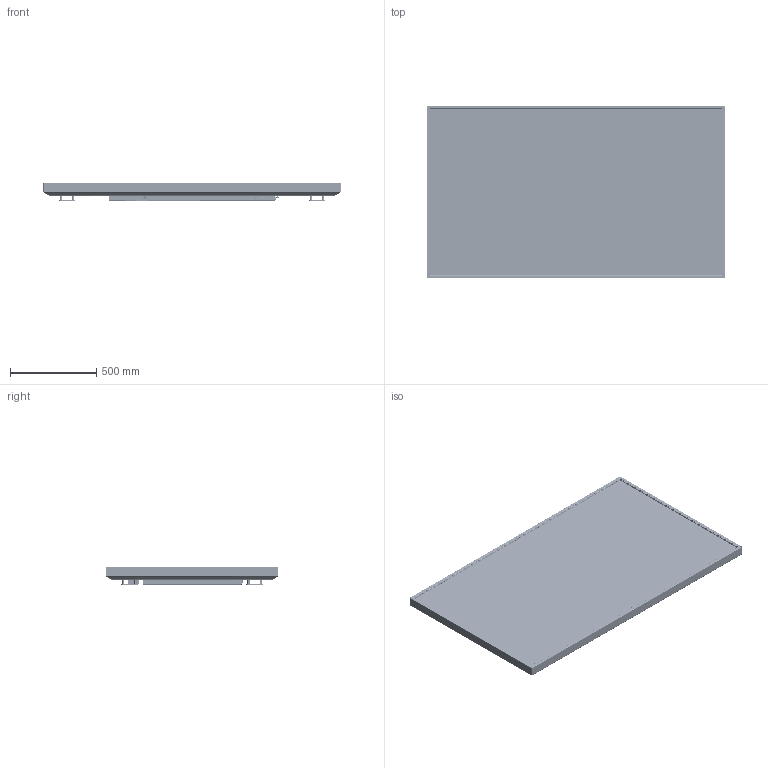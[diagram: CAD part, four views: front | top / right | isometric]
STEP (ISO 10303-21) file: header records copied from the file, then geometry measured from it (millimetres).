
FILE_DESCRIPTION (( 'STEP AP203' ), '1' );
FILE_NAME ('URX75-ERO-T Panel 3D.STEP', '2022-08-16T21:07:40', ( '' ), ( '' ), 'SwSTEP 2.0', 'SolidWorks 2021', '' );
FILE_SCHEMA (( 'CONFIG_CONTROL_DESIGN' ));
Length unit declared in the file: millimetre
Products named in the file (63): b18.6.7m - m4 x 0.7 x 8 type i cross recessed fhms --8n_B18.6.7M - M4 x 0.7 x 8 Type I Cross Recessed FHMS --8N; 572-5624; Shell Version of 944-2980; B18.6.7M - M3 x 0.5 x 6 Type I Cross Recessed PHMS --6N_B18.6.7M - M3 x 0.5 x 6 Type I Cross Recessed PHMS --6N; 572-5304; PEM BSO-M5-10 ZI--N; PLP2-125 (Lens); 927-0065; 572-5378; B18.6.7M - M4 x 0.7 x 6 Type I Cross Recessed PHMS --6N BLK_B18.6.7M - M4 x 0.7 x 6 Type I Cross Recessed PHMS BLK --6N; SPACER, 0.5in OD x 0.25in ID x 1.1875in LG_92414A437; PEM SO-M3-3 ZI--N_PEM SO-M3-3 ZI--N; PEM S-M3-1 ZI--N_PEM S-M3-1 ZI--N; 105-0022-00; BYEASY_UH74; PEM PF11-M4-1-ZI--N; 82-35-302-15 spring; 540-0192; URX75-ERO-T Panel 3D; RIVET - 093 C''SINK; 82-19-180-16; 572-5625; 572-5330_Masked; PEM BSO-3.5M3-14 ZI--N_PEM BSO-3.5M3-14 ZI--N; 572-5622; PEM SO-3.5M3-8 ZI--N_PEM SO-3.5M3-8 ZI--N; 572-5628; PEM FH-M6-15 ZI--N_PEM FH-M6-15 ZI--N; 572-5627; 105-0018-50; 591-0364; b18.3.5m - 6 x 1.0 x 40 socket fchs  -- 40n_B18.3.5M - 6 x 1.0 x 40 Socket FCHS  -- 40N; 572-5621; 526-0603_100 long; 572-5330; 572-4464; PEM TPS-4mm-16; 572-5339_Masked; PEM S-M4-1 ZI--N; 105-0020-00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
Assembly tree (217 placements, depth 6):
  URX75-ERO-T Panel 3D
    assy_module_p750qvn02v1_Glass-only
    Hayden common tray_Hayden 75
      437-2443
        572-5304
          572-5304_Masked
          PEM BSO-3.5M3-14 ZI--N_PEM BSO-3.5M3-14 ZI--N  x12
          PEM SO-3.5M3-8 ZI--N_PEM SO-3.5M3-8 ZI--N  x9
          PEM BSO-3.5M3-10 ZI--N_PEM BSO-3.5M3-10 ZI--N  x6
          PEM PF11-M4-1-ZI--N  x4
          105-0018-50
            82-35-302-15 spring
            82-35-302-15 base
          RIVET - 093 C''SINK  x2
          PEM FH-M6-15 ZI--N_PEM FH-M6-15 ZI--N
          PEM S-M4-1 ZI--N  x2
          PEM S-M3-1 ZI--N_PEM S-M3-1 ZI--N  x2
          PEM TPS-4mm-16  x2
        572-5339_Masked
        B18.6.7M - M4 x 0.7 x 6 Type I Cross Recessed PHMS --6N BLK_B18.6.7M - M4 x 0.7 x 6 Type I Cross Recessed PHMS BLK --6N  x2
        572-5345  x6
          572-5345
          PEM SO-M3-3 ZI--N_PEM SO-M3-3 ZI--N
        RIVET - 125 BUTTON HEAD  x12
      10SS6-B2AHR-QPB
      572-5330
        572-5330_Masked
        PF11MF-M4-1  x2
        PEM SO-3.5M3-4 ZI--N_PEM SO-3.5M3-4 ZI--N  x8
        PEM TPS-4mm-8_PreviewCfg  x2
        105-0020-00
        105-0022-00
        82-19-180-16
        B18.6.7M - M3 x 0.5 x 6 Type I Cross Recessed FHMS --6N_B18.6.7M - M3 x 0.5 x 6 Type I Cross Recessed FHMS --6N  x8
        B18.22M - Plain washer, 3 mm, wide_B18.22M - Plain washer, 3 mm, wide  x8
      572-5519
      BYEASY_UH74
    572-5346  x2
      572-5346
      PEM BSO-M5-10 ZI--N
    B18.6.7M - M3 x 0.5 x 6 Type I Cross Recessed PHMS --6N_B18.6.7M - M3 x 0.5 x 6 Type I Cross Recessed PHMS --6N  x18
    b18.6.7m - m4 x 0.7 x 8 type i cross recessed fhms --8n_B18.6.7M - M4 x 0.7 x 8 Type I Cross Recessed FHMS --8N  x32
    572-5378  x4
      572-5378
      SPACER, 0.5in OD x 0.25in ID x 1.1875in LG_92414A437
    b18.3.5m - 6 x 1.0 x 40 socket fchs  -- 40n_B18.3.5M - 6 x 1.0 x 40 Socket FCHS  -- 40N  x16
    572-5331_Masked
    572-5332_Masked
    540-0192
    572-4464
      572-4464
      PLP2-125 (Lens)
    B18.6.7M - M3 x 0.5 x 6 Type I Cross Recessed FHMS --6N BLK_PreviewCfg  x4
    927-0065
      591-0364
    572-5621  x2
    572-5622  x2
    526-0603_100 long  x4
    572-5624  x2
    572-5625  x2
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Bounding box: 1721.3 x 999.3 x 104.2 mm (x, y, z)
Volume: 9133663.7 mm3; surface area: 13431507.3 mm2
Topology: 241 solids, 369 shells, 18835 faces, 52482 edges, 34572 vertices
Faces by surface type: plane 10372, cylinder 5857, bspline 1461, cone 831, torus 200, sphere 114
Entity records: 491311 total; most frequent: CARTESIAN_POINT 140347, ORIENTED_EDGE 71499, DIRECTION 65803, EDGE_CURVE 38139, LINE 26155, VECTOR 26155, VERTEX_POINT 25834, AXIS2_PLACEMENT_3D 19824
